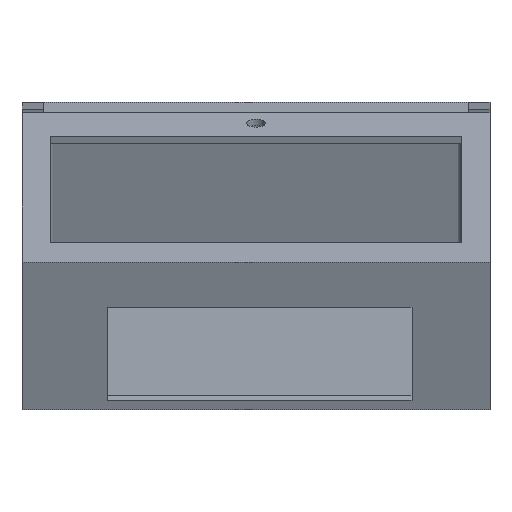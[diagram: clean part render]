
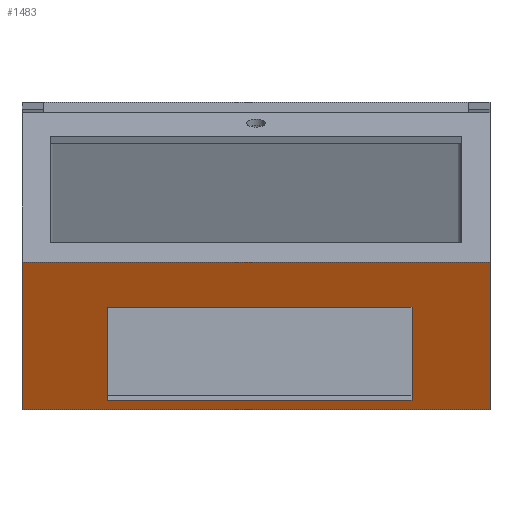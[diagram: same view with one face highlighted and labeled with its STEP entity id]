
A CAD part, top view. The second image highlights one B-rep face of the part: STEP entity #1483.
In plain terms, the highlighted planar face has unit normal (0, -0.423, 0.906).
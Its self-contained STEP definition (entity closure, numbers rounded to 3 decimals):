
#32 = PLANE('',#33);
#33 = AXIS2_PLACEMENT_3D('',#34,#35,#36);
#34 = CARTESIAN_POINT('',(0.,0.,27.44));
#35 = DIRECTION('',(1.,0.,0.));
#36 = DIRECTION('',(0.,-0.906,-0.423));
#220 = VERTEX_POINT('',#221);
#221 = CARTESIAN_POINT('',(0.,-42.262,118.071));
#235 = PLANE('',#236);
#236 = AXIS2_PLACEMENT_3D('',#237,#238,#239);
#237 = CARTESIAN_POINT('',(0.,0.,27.44));
#238 = DIRECTION('',(0.,-0.906,-0.423));
#239 = DIRECTION('',(1.,0.,0.));
#247 = EDGE_CURVE('',#220,#248,#250,.T.);
#248 = VERTEX_POINT('',#249);
#249 = CARTESIAN_POINT('',(0.,-83.861,98.673));
#250 = SURFACE_CURVE('',#251,(#255,#262),.PCURVE_S1.);
#251 = LINE('',#252,#253);
#252 = CARTESIAN_POINT('',(0.,-42.262,118.071));
#253 = VECTOR('',#254,1.);
#254 = DIRECTION('',(0.,-0.906,-0.423));
#255 = PCURVE('',#32,#256);
#256 = DEFINITIONAL_REPRESENTATION('',(#257),#261);
#257 = LINE('',#258,#259);
#258 = CARTESIAN_POINT('',(0.,-100.));
#259 = VECTOR('',#260,1.);
#260 = DIRECTION('',(1.,0.));
#261 = ( GEOMETRIC_REPRESENTATION_CONTEXT(2) 
PARAMETRIC_REPRESENTATION_CONTEXT() REPRESENTATION_CONTEXT('2D SPACE',''
  ) );
#262 = PCURVE('',#263,#268);
#263 = PLANE('',#264);
#264 = AXIS2_PLACEMENT_3D('',#265,#266,#267);
#265 = CARTESIAN_POINT('',(0.,-42.262,118.071));
#266 = DIRECTION('',(0.,-0.423,0.906));
#267 = DIRECTION('',(0.,-0.906,-0.423));
#268 = DEFINITIONAL_REPRESENTATION('',(#269),#273);
#269 = LINE('',#270,#271);
#270 = CARTESIAN_POINT('',(0.,0.));
#271 = VECTOR('',#272,1.);
#272 = DIRECTION('',(1.,0.));
#273 = ( GEOMETRIC_REPRESENTATION_CONTEXT(2) 
PARAMETRIC_REPRESENTATION_CONTEXT() REPRESENTATION_CONTEXT('2D SPACE',''
  ) );
#290 = PLANE('',#291);
#291 = AXIS2_PLACEMENT_3D('',#292,#293,#294);
#292 = CARTESIAN_POINT('',(-0.2,-41.515,7.861));
#293 = DIRECTION('',(0.,-0.906,-0.423));
#294 = DIRECTION('',(1.,0.,0.));
#606 = PLANE('',#607);
#607 = AXIS2_PLACEMENT_3D('',#608,#609,#610);
#608 = CARTESIAN_POINT('',(132.,-80.,0.));
#609 = DIRECTION('',(1.,0.,-0.));
#610 = DIRECTION('',(0.,0.,1.));
#1099 = VERTEX_POINT('',#1100);
#1100 = CARTESIAN_POINT('',(132.,-83.861,98.673));
#1119 = EDGE_CURVE('',#248,#1099,#1120,.T.);
#1120 = SURFACE_CURVE('',#1121,(#1125,#1131),.PCURVE_S1.);
#1121 = LINE('',#1122,#1123);
#1122 = CARTESIAN_POINT('',(-0.1,-83.861,98.673));
#1123 = VECTOR('',#1124,1.);
#1124 = DIRECTION('',(1.,0.,0.));
#1125 = PCURVE('',#290,#1126);
#1126 = DEFINITIONAL_REPRESENTATION('',(#1127),#1130);
#1127 = B_SPLINE_CURVE_WITH_KNOTS('',1,(#1128,#1129),.UNSPECIFIED.,.F.,
  .F.,(2,2),(0.1,132.1),.PIECEWISE_BEZIER_KNOTS.);
#1128 = CARTESIAN_POINT('',(0.2,100.2));
#1129 = CARTESIAN_POINT('',(132.2,100.2));
#1130 = ( GEOMETRIC_REPRESENTATION_CONTEXT(2) 
PARAMETRIC_REPRESENTATION_CONTEXT() REPRESENTATION_CONTEXT('2D SPACE',''
  ) );
#1131 = PCURVE('',#263,#1132);
#1132 = DEFINITIONAL_REPRESENTATION('',(#1133),#1136);
#1133 = B_SPLINE_CURVE_WITH_KNOTS('',1,(#1134,#1135),.UNSPECIFIED.,.F.,
  .F.,(2,2),(0.1,132.1),.PIECEWISE_BEZIER_KNOTS.);
#1134 = CARTESIAN_POINT('',(45.9,0.));
#1135 = CARTESIAN_POINT('',(45.9,132.));
#1136 = ( GEOMETRIC_REPRESENTATION_CONTEXT(2) 
PARAMETRIC_REPRESENTATION_CONTEXT() REPRESENTATION_CONTEXT('2D SPACE',''
  ) );
#1483 = ADVANCED_FACE('',(#1484,#1532),#263,.T.);
#1484 = FACE_BOUND('',#1485,.T.);
#1485 = EDGE_LOOP('',(#1486,#1509,#1530,#1531));
#1486 = ORIENTED_EDGE('',*,*,#1487,.F.);
#1487 = EDGE_CURVE('',#1488,#1099,#1490,.T.);
#1488 = VERTEX_POINT('',#1489);
#1489 = CARTESIAN_POINT('',(132.,-42.262,118.071));
#1490 = SURFACE_CURVE('',#1491,(#1495,#1502),.PCURVE_S1.);
#1491 = LINE('',#1492,#1493);
#1492 = CARTESIAN_POINT('',(132.,-42.262,118.071));
#1493 = VECTOR('',#1494,1.);
#1494 = DIRECTION('',(0.,-0.906,-0.423));
#1495 = PCURVE('',#263,#1496);
#1496 = DEFINITIONAL_REPRESENTATION('',(#1497),#1501);
#1497 = LINE('',#1498,#1499);
#1498 = CARTESIAN_POINT('',(0.,132.));
#1499 = VECTOR('',#1500,1.);
#1500 = DIRECTION('',(1.,0.));
#1501 = ( GEOMETRIC_REPRESENTATION_CONTEXT(2) 
PARAMETRIC_REPRESENTATION_CONTEXT() REPRESENTATION_CONTEXT('2D SPACE',''
  ) );
#1502 = PCURVE('',#606,#1503);
#1503 = DEFINITIONAL_REPRESENTATION('',(#1504),#1508);
#1504 = LINE('',#1505,#1506);
#1505 = CARTESIAN_POINT('',(118.071,-37.738));
#1506 = VECTOR('',#1507,1.);
#1507 = DIRECTION('',(-0.423,0.906));
#1508 = ( GEOMETRIC_REPRESENTATION_CONTEXT(2) 
PARAMETRIC_REPRESENTATION_CONTEXT() REPRESENTATION_CONTEXT('2D SPACE',''
  ) );
#1509 = ORIENTED_EDGE('',*,*,#1510,.F.);
#1510 = EDGE_CURVE('',#220,#1488,#1511,.T.);
#1511 = SURFACE_CURVE('',#1512,(#1516,#1523),.PCURVE_S1.);
#1512 = LINE('',#1513,#1514);
#1513 = CARTESIAN_POINT('',(0.,-42.262,118.071));
#1514 = VECTOR('',#1515,1.);
#1515 = DIRECTION('',(1.,0.,0.));
#1516 = PCURVE('',#263,#1517);
#1517 = DEFINITIONAL_REPRESENTATION('',(#1518),#1522);
#1518 = LINE('',#1519,#1520);
#1519 = CARTESIAN_POINT('',(0.,0.));
#1520 = VECTOR('',#1521,1.);
#1521 = DIRECTION('',(0.,1.));
#1522 = ( GEOMETRIC_REPRESENTATION_CONTEXT(2) 
PARAMETRIC_REPRESENTATION_CONTEXT() REPRESENTATION_CONTEXT('2D SPACE',''
  ) );
#1523 = PCURVE('',#235,#1524);
#1524 = DEFINITIONAL_REPRESENTATION('',(#1525),#1529);
#1525 = LINE('',#1526,#1527);
#1526 = CARTESIAN_POINT('',(0.,100.));
#1527 = VECTOR('',#1528,1.);
#1528 = DIRECTION('',(1.,0.));
#1529 = ( GEOMETRIC_REPRESENTATION_CONTEXT(2) 
PARAMETRIC_REPRESENTATION_CONTEXT() REPRESENTATION_CONTEXT('2D SPACE',''
  ) );
#1530 = ORIENTED_EDGE('',*,*,#247,.T.);
#1531 = ORIENTED_EDGE('',*,*,#1119,.T.);
#1532 = FACE_BOUND('',#1533,.T.);
#1533 = EDGE_LOOP('',(#1534,#1564,#1592,#1620));
#1534 = ORIENTED_EDGE('',*,*,#1535,.F.);
#1535 = EDGE_CURVE('',#1536,#1538,#1540,.T.);
#1536 = VERTEX_POINT('',#1537);
#1537 = CARTESIAN_POINT('',(24.,-81.233,99.899));
#1538 = VERTEX_POINT('',#1539);
#1539 = CARTESIAN_POINT('',(110.,-81.233,99.899));
#1540 = SURFACE_CURVE('',#1541,(#1545,#1552),.PCURVE_S1.);
#1541 = LINE('',#1542,#1543);
#1542 = CARTESIAN_POINT('',(12.,-81.233,99.899));
#1543 = VECTOR('',#1544,1.);
#1544 = DIRECTION('',(1.,0.,0.));
#1545 = PCURVE('',#263,#1546);
#1546 = DEFINITIONAL_REPRESENTATION('',(#1547),#1551);
#1547 = LINE('',#1548,#1549);
#1548 = CARTESIAN_POINT('',(43.,12.));
#1549 = VECTOR('',#1550,1.);
#1550 = DIRECTION('',(0.,1.));
#1551 = ( GEOMETRIC_REPRESENTATION_CONTEXT(2) 
PARAMETRIC_REPRESENTATION_CONTEXT() REPRESENTATION_CONTEXT('2D SPACE',''
  ) );
#1552 = PCURVE('',#1553,#1558);
#1553 = PLANE('',#1554);
#1554 = AXIS2_PLACEMENT_3D('',#1555,#1556,#1557);
#1555 = CARTESIAN_POINT('',(24.,-79.543,96.273));
#1556 = DIRECTION('',(0.,-0.906,-0.423));
#1557 = DIRECTION('',(1.,0.,0.));
#1558 = DEFINITIONAL_REPRESENTATION('',(#1559),#1563);
#1559 = LINE('',#1560,#1561);
#1560 = CARTESIAN_POINT('',(-12.,4.));
#1561 = VECTOR('',#1562,1.);
#1562 = DIRECTION('',(1.,0.));
#1563 = ( GEOMETRIC_REPRESENTATION_CONTEXT(2) 
PARAMETRIC_REPRESENTATION_CONTEXT() REPRESENTATION_CONTEXT('2D SPACE',''
  ) );
#1564 = ORIENTED_EDGE('',*,*,#1565,.T.);
#1565 = EDGE_CURVE('',#1536,#1566,#1568,.T.);
#1566 = VERTEX_POINT('',#1567);
#1567 = CARTESIAN_POINT('',(24.,-54.95,112.155));
#1568 = SURFACE_CURVE('',#1569,(#1573,#1580),.PCURVE_S1.);
#1569 = LINE('',#1570,#1571);
#1570 = CARTESIAN_POINT('',(24.,-48.606,115.113));
#1571 = VECTOR('',#1572,1.);
#1572 = DIRECTION('',(0.,0.906,0.423));
#1573 = PCURVE('',#263,#1574);
#1574 = DEFINITIONAL_REPRESENTATION('',(#1575),#1579);
#1575 = LINE('',#1576,#1577);
#1576 = CARTESIAN_POINT('',(7.,24.));
#1577 = VECTOR('',#1578,1.);
#1578 = DIRECTION('',(-1.,0.));
#1579 = ( GEOMETRIC_REPRESENTATION_CONTEXT(2) 
PARAMETRIC_REPRESENTATION_CONTEXT() REPRESENTATION_CONTEXT('2D SPACE',''
  ) );
#1580 = PCURVE('',#1581,#1586);
#1581 = PLANE('',#1582);
#1582 = AXIS2_PLACEMENT_3D('',#1583,#1584,#1585);
#1583 = CARTESIAN_POINT('',(24.,-53.26,108.529));
#1584 = DIRECTION('',(1.,0.,0.));
#1585 = DIRECTION('',(0.,-0.906,-0.423));
#1586 = DEFINITIONAL_REPRESENTATION('',(#1587),#1591);
#1587 = LINE('',#1588,#1589);
#1588 = CARTESIAN_POINT('',(-7.,-4.));
#1589 = VECTOR('',#1590,1.);
#1590 = DIRECTION('',(-1.,0.));
#1591 = ( GEOMETRIC_REPRESENTATION_CONTEXT(2) 
PARAMETRIC_REPRESENTATION_CONTEXT() REPRESENTATION_CONTEXT('2D SPACE',''
  ) );
#1592 = ORIENTED_EDGE('',*,*,#1593,.T.);
#1593 = EDGE_CURVE('',#1566,#1594,#1596,.T.);
#1594 = VERTEX_POINT('',#1595);
#1595 = CARTESIAN_POINT('',(110.,-54.95,112.155));
#1596 = SURFACE_CURVE('',#1597,(#1601,#1608),.PCURVE_S1.);
#1597 = LINE('',#1598,#1599);
#1598 = CARTESIAN_POINT('',(12.,-54.95,112.155));
#1599 = VECTOR('',#1600,1.);
#1600 = DIRECTION('',(1.,0.,0.));
#1601 = PCURVE('',#263,#1602);
#1602 = DEFINITIONAL_REPRESENTATION('',(#1603),#1607);
#1603 = LINE('',#1604,#1605);
#1604 = CARTESIAN_POINT('',(14.,12.));
#1605 = VECTOR('',#1606,1.);
#1606 = DIRECTION('',(0.,1.));
#1607 = ( GEOMETRIC_REPRESENTATION_CONTEXT(2) 
PARAMETRIC_REPRESENTATION_CONTEXT() REPRESENTATION_CONTEXT('2D SPACE',''
  ) );
#1608 = PCURVE('',#1609,#1614);
#1609 = PLANE('',#1610);
#1610 = AXIS2_PLACEMENT_3D('',#1611,#1612,#1613);
#1611 = CARTESIAN_POINT('',(24.,-53.26,108.529));
#1612 = DIRECTION('',(0.,-0.906,-0.423));
#1613 = DIRECTION('',(1.,0.,0.));
#1614 = DEFINITIONAL_REPRESENTATION('',(#1615),#1619);
#1615 = LINE('',#1616,#1617);
#1616 = CARTESIAN_POINT('',(-12.,4.));
#1617 = VECTOR('',#1618,1.);
#1618 = DIRECTION('',(1.,0.));
#1619 = ( GEOMETRIC_REPRESENTATION_CONTEXT(2) 
PARAMETRIC_REPRESENTATION_CONTEXT() REPRESENTATION_CONTEXT('2D SPACE',''
  ) );
#1620 = ORIENTED_EDGE('',*,*,#1621,.F.);
#1621 = EDGE_CURVE('',#1538,#1594,#1622,.T.);
#1622 = SURFACE_CURVE('',#1623,(#1627,#1634),.PCURVE_S1.);
#1623 = LINE('',#1624,#1625);
#1624 = CARTESIAN_POINT('',(110.,-48.606,115.113));
#1625 = VECTOR('',#1626,1.);
#1626 = DIRECTION('',(0.,0.906,0.423));
#1627 = PCURVE('',#263,#1628);
#1628 = DEFINITIONAL_REPRESENTATION('',(#1629),#1633);
#1629 = LINE('',#1630,#1631);
#1630 = CARTESIAN_POINT('',(7.,110.));
#1631 = VECTOR('',#1632,1.);
#1632 = DIRECTION('',(-1.,0.));
#1633 = ( GEOMETRIC_REPRESENTATION_CONTEXT(2) 
PARAMETRIC_REPRESENTATION_CONTEXT() REPRESENTATION_CONTEXT('2D SPACE',''
  ) );
#1634 = PCURVE('',#1635,#1640);
#1635 = PLANE('',#1636);
#1636 = AXIS2_PLACEMENT_3D('',#1637,#1638,#1639);
#1637 = CARTESIAN_POINT('',(110.,-53.26,108.529));
#1638 = DIRECTION('',(1.,0.,0.));
#1639 = DIRECTION('',(0.,-0.906,-0.423));
#1640 = DEFINITIONAL_REPRESENTATION('',(#1641),#1645);
#1641 = LINE('',#1642,#1643);
#1642 = CARTESIAN_POINT('',(-7.,-4.));
#1643 = VECTOR('',#1644,1.);
#1644 = DIRECTION('',(-1.,0.));
#1645 = ( GEOMETRIC_REPRESENTATION_CONTEXT(2) 
PARAMETRIC_REPRESENTATION_CONTEXT() REPRESENTATION_CONTEXT('2D SPACE',''
  ) );
